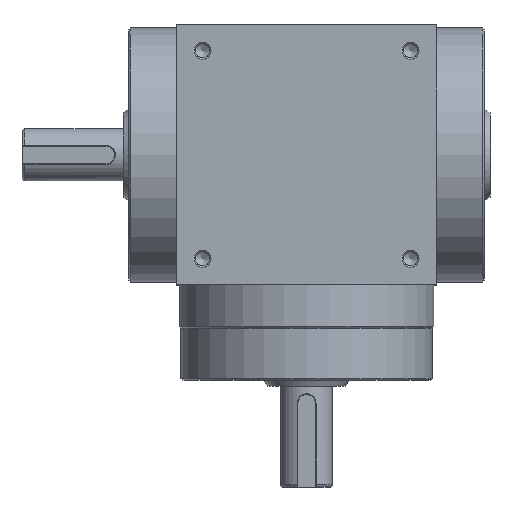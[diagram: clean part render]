
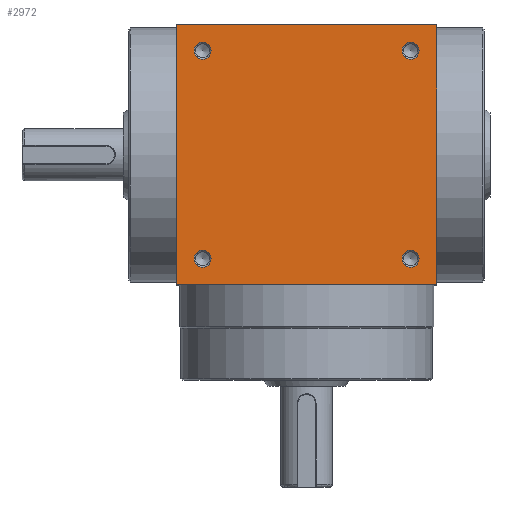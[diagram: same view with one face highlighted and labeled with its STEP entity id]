
A CAD part, top view. The second image highlights one B-rep face of the part: STEP entity #2972.
In plain terms, the highlighted planar face has unit normal (0, 0, 1).
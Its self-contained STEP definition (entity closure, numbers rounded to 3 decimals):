
#667=CARTESIAN_POINT('',(45.,45.,45.0));
#668=VERTEX_POINT('',#667);
#675=CARTESIAN_POINT('',(45.,-45.,45.0));
#676=VERTEX_POINT('',#675);
#677=CARTESIAN_POINT('',(45.,-45.,45.0));
#678=DIRECTION('',(0.0,1.0,0.0));
#679=VECTOR('',#678,90.0);
#680=LINE('',#677,#679);
#681=EDGE_CURVE('',#676,#668,#680,.T.);
#1029=CARTESIAN_POINT('',(-45.0,-45.,45.0));
#1030=VERTEX_POINT('',#1029);
#1031=CARTESIAN_POINT('',(-45.0,-45.,45.0));
#1032=DIRECTION('',(1.0,0.0,0.0));
#1033=VECTOR('',#1032,90.);
#1034=LINE('',#1031,#1033);
#1035=EDGE_CURVE('',#1030,#676,#1034,.T.);
#2504=CARTESIAN_POINT('',(-45.,45.,45.0));
#2505=VERTEX_POINT('',#2504);
#2512=CARTESIAN_POINT('',(45.,45.,45.0));
#2513=DIRECTION('',(-1.0,0.0,0.0));
#2514=VECTOR('',#2513,90.0);
#2515=LINE('',#2512,#2514);
#2516=EDGE_CURVE('',#668,#2505,#2515,.T.);
#2908=CARTESIAN_POINT('',(33.042,-36.0,45.0));
#2909=VERTEX_POINT('',#2908);
#2910=CARTESIAN_POINT('',(36.,-36.0,45.0));
#2911=DIRECTION('',(0.0,0.0,1.0));
#2912=DIRECTION('',(1.0,0.0,0.0));
#2913=AXIS2_PLACEMENT_3D('',#2910,#2911,#2912);
#2914=CIRCLE('',#2913,2.958);
#2915=EDGE_CURVE('',#2909,#2909,#2914,.T.);
#2920=CARTESIAN_POINT('',(0.,0.,45.0));
#2921=DIRECTION('',(0.0,0.0,1.0));
#2922=DIRECTION('',(1.0,0.0,0.0));
#2923=AXIS2_PLACEMENT_3D('',#2920,#2921,#2922);
#2924=PLANE('',#2923);
#2925=ORIENTED_EDGE('',*,*,#1035,.T.);
#2926=ORIENTED_EDGE('',*,*,#681,.T.);
#2927=ORIENTED_EDGE('',*,*,#2516,.T.);
#2928=CARTESIAN_POINT('',(-45.,45.,45.0));
#2929=DIRECTION('',(0.0,-1.0,0.0));
#2930=VECTOR('',#2929,90.0);
#2931=LINE('',#2928,#2930);
#2932=EDGE_CURVE('',#2505,#1030,#2931,.T.);
#2933=ORIENTED_EDGE('',*,*,#2932,.T.);
#2934=EDGE_LOOP('',(#2925,#2926,#2927,#2933));
#2935=FACE_OUTER_BOUND('',#2934,.T.);
#2936=CARTESIAN_POINT('',(33.042,36.0,45.0));
#2937=VERTEX_POINT('',#2936);
#2938=CARTESIAN_POINT('',(36.,36.0,45.0));
#2939=DIRECTION('',(0.0,0.0,1.0));
#2940=DIRECTION('',(1.0,0.0,0.0));
#2941=AXIS2_PLACEMENT_3D('',#2938,#2939,#2940);
#2942=CIRCLE('',#2941,2.958);
#2943=EDGE_CURVE('',#2937,#2937,#2942,.T.);
#2944=ORIENTED_EDGE('',*,*,#2943,.F.);
#2945=EDGE_LOOP('',(#2944));
#2946=FACE_BOUND('',#2945,.T.);
#2947=CARTESIAN_POINT('',(-33.042,36.,45.0));
#2948=VERTEX_POINT('',#2947);
#2949=CARTESIAN_POINT('',(-36.,36.,45.0));
#2950=DIRECTION('',(0.0,0.0,1.0));
#2951=DIRECTION('',(-1.0,0.0,0.0));
#2952=AXIS2_PLACEMENT_3D('',#2949,#2950,#2951);
#2953=CIRCLE('',#2952,2.958);
#2954=EDGE_CURVE('',#2948,#2948,#2953,.T.);
#2955=ORIENTED_EDGE('',*,*,#2954,.F.);
#2956=EDGE_LOOP('',(#2955));
#2957=FACE_BOUND('',#2956,.T.);
#2958=CARTESIAN_POINT('',(-33.042,-36.,45.0));
#2959=VERTEX_POINT('',#2958);
#2960=CARTESIAN_POINT('',(-36.,-36.,45.0));
#2961=DIRECTION('',(0.0,0.0,1.0));
#2962=DIRECTION('',(-1.0,0.0,0.0));
#2963=AXIS2_PLACEMENT_3D('',#2960,#2961,#2962);
#2964=CIRCLE('',#2963,2.958);
#2965=EDGE_CURVE('',#2959,#2959,#2964,.T.);
#2966=ORIENTED_EDGE('',*,*,#2965,.F.);
#2967=EDGE_LOOP('',(#2966));
#2968=FACE_BOUND('',#2967,.T.);
#2969=ORIENTED_EDGE('',*,*,#2915,.F.);
#2970=EDGE_LOOP('',(#2969));
#2971=FACE_BOUND('',#2970,.T.);
#2972=ADVANCED_FACE('',(#2935,#2946,#2957,#2968,#2971),#2924,.T.);
